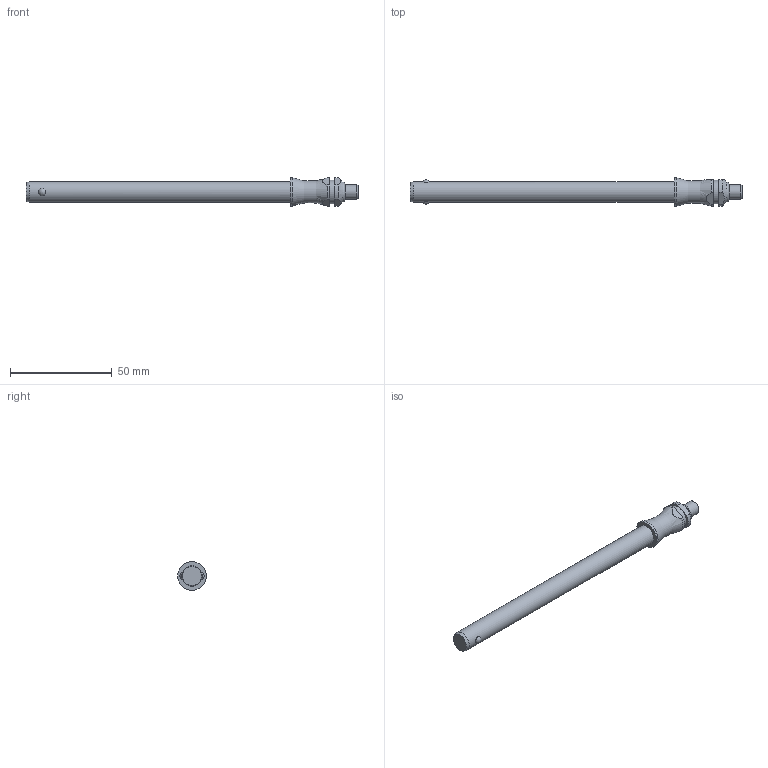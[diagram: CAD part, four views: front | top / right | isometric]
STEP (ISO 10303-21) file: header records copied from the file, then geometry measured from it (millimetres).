
FILE_DESCRIPTION( ( 'STEP AP203' ), '1' );
FILE_NAME( 'C:/Temp/Ganter_Step_05_03_2020/data/3_1/gn113_3/Stainless Steel-Ball lock pin GN 113.3-10-120 (deactivated).stp', '2020-03-12T08:18:39', ( 'License CC BY-ND 4.0' ), ( 'CADENAS' ), ' ', 'PARTsolutions', ' ' );
FILE_SCHEMA( ( 'CONFIG_CONTROL_DESIGN' ) );
Length unit declared in the file: millimetre
Products named in the file (1): _Stainless Steel-Ball lock pin GN 113.3-10-120 (deactivated)
Bounding box: 162.9 x 14 x 14 mm (x, y, z)
Volume: 13404.2 mm3; surface area: 5530.5 mm2
Topology: 1 solids, 1 shells, 28 faces, 60 edges, 39 vertices
Faces by surface type: plane 11, cylinder 10, cone 3, torus 2, sphere 2
Full cylindrical faces by diameter (mm): 7 x1, 10 x1, 11.6 x1, 14 x1
Entity records: 940 total; most frequent: CARTESIAN_POINT 327, DIRECTION 122, ORIENTED_EDGE 98, AXIS2_PLACEMENT_3D 52, EDGE_CURVE 49, EDGE_LOOP 42, VERTEX_POINT 37, FACE_OUTER_BOUND 34
